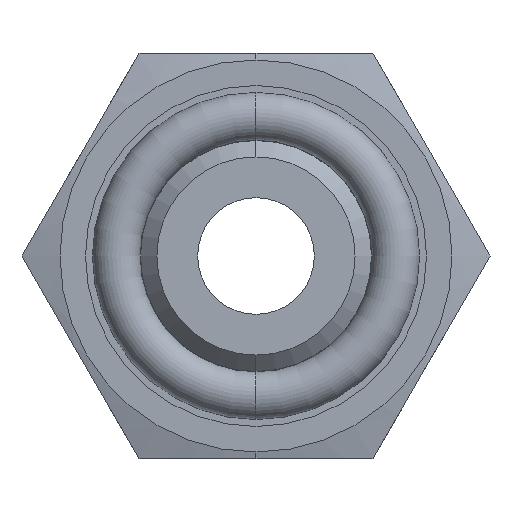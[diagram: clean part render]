
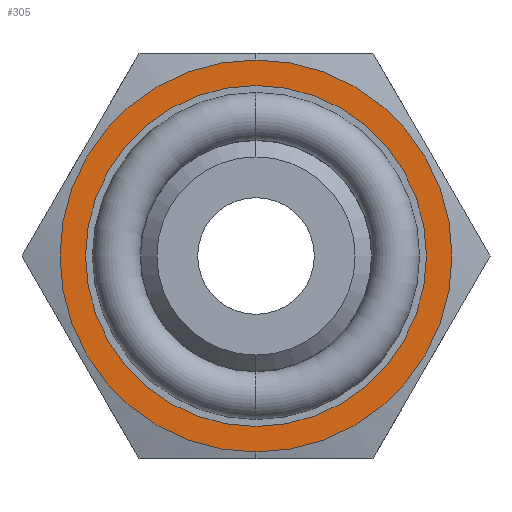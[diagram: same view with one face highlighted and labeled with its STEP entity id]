
A CAD part, left-side view. The second image highlights one B-rep face of the part: STEP entity #305.
In plain terms, the highlighted planar face has unit normal (-1, 0, 0).
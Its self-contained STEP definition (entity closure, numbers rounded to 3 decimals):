
#35 = EDGE_CURVE ( 'NONE', #50, #49, #651, .T. ) ;
#49 = VERTEX_POINT ( 'NONE', #681 ) ;
#50 = VERTEX_POINT ( 'NONE', #676 ) ;
#52 = EDGE_CURVE ( 'NONE', #56, #54, #675, .T. ) ;
#54 = VERTEX_POINT ( 'NONE', #733 ) ;
#56 = VERTEX_POINT ( 'NONE', #732 ) ;
#278 = EDGE_LOOP ( 'NONE', ( #279, #281 ) ) ;
#279 = ORIENTED_EDGE ( 'NONE', *, *, #280, .F. ) ;
#280 = EDGE_CURVE ( 'NONE', #54, #56, #1182, .T. ) ;
#281 = ORIENTED_EDGE ( 'NONE', *, *, #52, .F. ) ;
#282 = EDGE_LOOP ( 'NONE', ( #283, #285 ) ) ;
#283 = ORIENTED_EDGE ( 'NONE', *, *, #284, .T. ) ;
#284 = EDGE_CURVE ( 'NONE', #49, #50, #1177, .T. ) ;
#285 = ORIENTED_EDGE ( 'NONE', *, *, #35, .T. ) ;
#305 = ADVANCED_FACE ( 'NONE', ( #1241, #1240 ), #1239, .T. ) ;
#647 = DIRECTION ( 'NONE',  ( 0., 0., 1. ) ) ;
#648 = DIRECTION ( 'NONE',  ( -1., 0., 0. ) ) ;
#649 = CARTESIAN_POINT ( 'NONE',  ( -4.5, 0., 0. ) ) ;
#650 = AXIS2_PLACEMENT_3D ( 'NONE', #649, #648, #647 ) ;
#651 = CIRCLE ( 'NONE', #650, 10.75 ) ;
#675 = CIRCLE ( 'NONE', #737, 9.35 ) ;
#676 = CARTESIAN_POINT ( 'NONE',  ( -4.5, 0., 10.75 ) ) ;
#681 = CARTESIAN_POINT ( 'NONE',  ( -4.5, 0., -10.75 ) ) ;
#732 = CARTESIAN_POINT ( 'NONE',  ( -4.5, 0., -9.35 ) ) ;
#733 = CARTESIAN_POINT ( 'NONE',  ( -4.5, 0., 9.35 ) ) ;
#734 = DIRECTION ( 'NONE',  ( 0., 0., 1. ) ) ;
#735 = DIRECTION ( 'NONE',  ( -1., 0., 0. ) ) ;
#736 = CARTESIAN_POINT ( 'NONE',  ( -4.5, 0., 0. ) ) ;
#737 = AXIS2_PLACEMENT_3D ( 'NONE', #736, #735, #734 ) ;
#1173 = DIRECTION ( 'NONE',  ( 0., 0., 1. ) ) ;
#1174 = DIRECTION ( 'NONE',  ( -1., 0., 0. ) ) ;
#1175 = CARTESIAN_POINT ( 'NONE',  ( -4.5, 0., 0. ) ) ;
#1176 = AXIS2_PLACEMENT_3D ( 'NONE', #1175, #1174, #1173 ) ;
#1177 = CIRCLE ( 'NONE', #1176, 10.75 ) ;
#1178 = DIRECTION ( 'NONE',  ( 0., 0., 1. ) ) ;
#1179 = DIRECTION ( 'NONE',  ( -1., 0., 0. ) ) ;
#1180 = CARTESIAN_POINT ( 'NONE',  ( -4.5, 0., 0. ) ) ;
#1181 = AXIS2_PLACEMENT_3D ( 'NONE', #1180, #1179, #1178 ) ;
#1182 = CIRCLE ( 'NONE', #1181, 9.35 ) ;
#1235 = DIRECTION ( 'NONE',  ( 0., 0., 1. ) ) ;
#1236 = DIRECTION ( 'NONE',  ( -1., 0., 0. ) ) ;
#1237 = AXIS2_PLACEMENT_3D ( 'NONE', #1238, #1236, #1235 ) ;
#1238 = CARTESIAN_POINT ( 'NONE',  ( -4.5, 0., 0. ) ) ;
#1239 = PLANE ( 'NONE',  #1237 ) ;
#1240 = FACE_OUTER_BOUND ( 'NONE', #282, .T. ) ;
#1241 = FACE_BOUND ( 'NONE', #278, .T. ) ;
